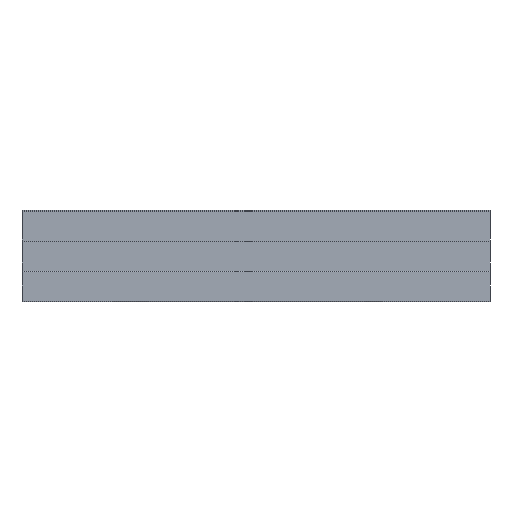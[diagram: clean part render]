
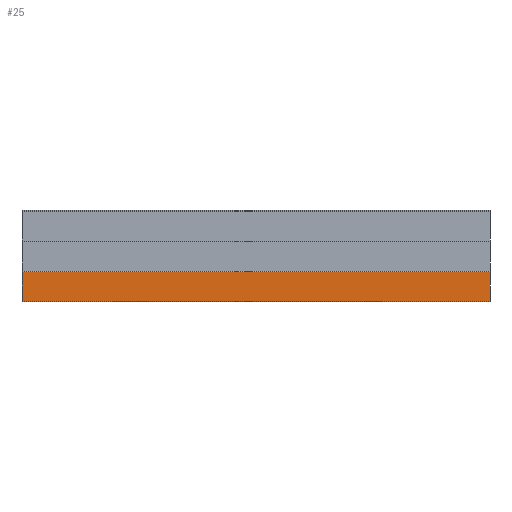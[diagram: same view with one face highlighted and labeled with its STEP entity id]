
A CAD part, top view. The second image highlights one B-rep face of the part: STEP entity #25.
In plain terms, the highlighted planar face has unit normal (0, 0, 1).
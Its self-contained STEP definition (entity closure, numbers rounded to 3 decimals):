
#25=ADVANCED_FACE('',(#52),#452,.T.);
#52=FACE_OUTER_BOUND('',#79,.T.);
#79=EDGE_LOOP('',(#118,#119,#120,#121));
#118=ORIENTED_EDGE('',*,*,#223,.T.);
#119=ORIENTED_EDGE('',*,*,#224,.T.);
#120=ORIENTED_EDGE('',*,*,#225,.F.);
#121=ORIENTED_EDGE('',*,*,#221,.F.);
#221=EDGE_CURVE('',#386,#387,#298,.T.);
#223=EDGE_CURVE('',#386,#388,#337,.T.);
#224=EDGE_CURVE('',#388,#389,#338,.T.);
#225=EDGE_CURVE('',#387,#389,#339,.T.);
#298=(
BOUNDED_CURVE()
B_SPLINE_CURVE(1,(#595,#596),.UNSPECIFIED.,.F.,.F.)
B_SPLINE_CURVE_WITH_KNOTS((2,2),(0.,6200.),.UNSPECIFIED.)
CURVE()
GEOMETRIC_REPRESENTATION_ITEM()
RATIONAL_B_SPLINE_CURVE((1.,1.))
REPRESENTATION_ITEM('')
);
#337=B_SPLINE_CURVE_WITH_KNOTS('',1,(#600,#601),.UNSPECIFIED.,.F.,.F.,(2,
2),(541.702,936.702),.UNSPECIFIED.);
#338=B_SPLINE_CURVE_WITH_KNOTS('',1,(#602,#603),.UNSPECIFIED.,.F.,.F.,(2,
2),(0.,6200.),.UNSPECIFIED.);
#339=B_SPLINE_CURVE_WITH_KNOTS('',1,(#604,#605),.UNSPECIFIED.,.F.,.F.,(2,
2),(541.702,936.702),.UNSPECIFIED.);
#386=VERTEX_POINT('',#558);
#387=VERTEX_POINT('',#559);
#388=VERTEX_POINT('',#560);
#389=VERTEX_POINT('',#561);
#452=PLANE('',#487);
#487=AXIS2_PLACEMENT_3D('',#535,#505,$);
#505=DIRECTION('',(0.,0.,1.));
#535=CARTESIAN_POINT('',(-3100.,387.382,6.5));
#558=CARTESIAN_POINT('',(-3100.,387.382,6.5));
#559=CARTESIAN_POINT('',(3100.,387.382,6.5));
#560=CARTESIAN_POINT('',(-3100.,-7.618,6.5));
#561=CARTESIAN_POINT('',(3100.,-7.618,6.5));
#595=CARTESIAN_POINT('',(-3100.,387.382,6.5));
#596=CARTESIAN_POINT('',(3100.,387.382,6.5));
#600=CARTESIAN_POINT('',(-3100.,387.382,6.5));
#601=CARTESIAN_POINT('',(-3100.,-7.618,6.5));
#602=CARTESIAN_POINT('',(-3100.,-7.618,6.5));
#603=CARTESIAN_POINT('',(3100.,-7.618,6.5));
#604=CARTESIAN_POINT('',(3100.,387.382,6.5));
#605=CARTESIAN_POINT('',(3100.,-7.618,6.5));
